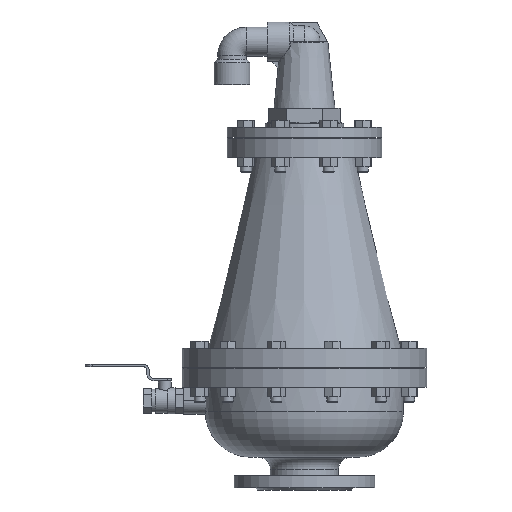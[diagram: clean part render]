
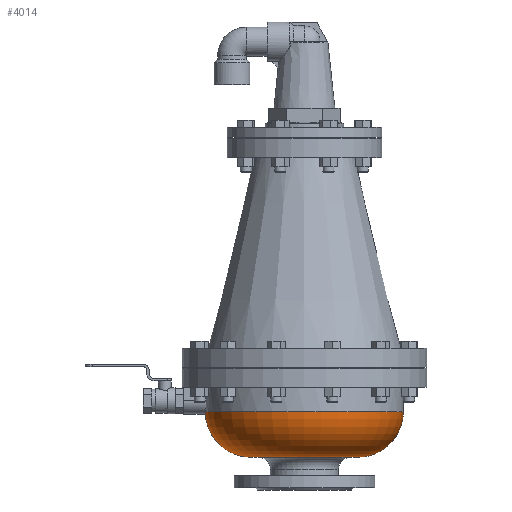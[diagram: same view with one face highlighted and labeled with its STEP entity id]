
A CAD part, left-side view. The second image highlights one B-rep face of the part: STEP entity #4014.
In plain terms, the highlighted toroidal (fillet/blend) face has major radius 76 mm and minor radius 65 mm.
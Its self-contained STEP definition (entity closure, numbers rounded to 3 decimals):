
#4014=ADVANCED_FACE('',(#8624,#8626),#8628,.T.);
#8624=FACE_BOUND('',#8625,.T.);
#8625=EDGE_LOOP('',(#12201,#12202,#12203));
#8626=FACE_OUTER_BOUND('',#8627,.T.);
#8627=EDGE_LOOP('',(#12204));
#8628=TOROIDAL_SURFACE('',#8629,76.,65.);
#8629=AXIS2_PLACEMENT_3D('',#8630,#8631,#8632);
#8630=CARTESIAN_POINT('',(0.,0.,111.59));
#8631=DIRECTION('',(0.,0.,-1.));
#8632=DIRECTION('',(-1.,0.,0.));
#12201=ORIENTED_EDGE('',*,*,#13940,.T.);
#12202=ORIENTED_EDGE('',*,*,#13939,.T.);
#12203=ORIENTED_EDGE('',*,*,#13981,.F.);
#12204=ORIENTED_EDGE('',*,*,#13982,.F.);
#13939=EDGE_CURVE('',#16127,#16125,#16128,.T.);
#13940=EDGE_CURVE('',#16129,#16127,#16130,.T.);
#13981=EDGE_CURVE('',#16129,#16125,#16202,.T.);
#13982=EDGE_CURVE('',#16203,#16203,#16204,.T.);
#16125=VERTEX_POINT('',#21406);
#16127=VERTEX_POINT('',#21455);
#16128=CIRCLE('',#21456,141.);
#16129=VERTEX_POINT('',#21460);
#16130=CIRCLE('',#21461,141.);
#16202=B_SPLINE_CURVE_WITH_KNOTS('',3,
(#21915,#21916,#21917,#21918,#21919,#21920,#21921,#21922,#21923,#21924,#21925,#21926,
#21927,#21928,#21929,#21930,#21931,#21932,#21933,#21934,#21935,#21936,#21937,#21938,
#21939,#21940,#21941,#21942,#21943,#21944,#21945,#21946,#21947,#21948,#21949,#21950,
#21951,#21952,#21953,#21954,#21955,#21956,#21957,#21958,#21959,#21960,#21961,#21962,
#21963,#21964,#21965,#21966,#21967,#21968,#21969,#21970,#21971,#21972,#21973,#21974,
#21975,#21976,#21977,#21978,#21979,#21980,#21981,#21982,#21983,#21984,#21985,#21986,
#21987,#21988,#21989,#21990,#21991,#21992,#21993,#21994,#21995,#21996,#21997,#21998,
#21999,#22000,#22001),
.UNSPECIFIED.,.F.,.F.,
(4,1,1,1,1,1,1,1,1,1,1,1,1,1,1,1,1,1,1,1,1,1,1,1,1,1,1,1,1,1,1,1,1,1,1,1,1,1,1,1,
1,1,1,1,1,1,1,1,1,1,1,1,1,1,1,1,1,1,1,1,1,1,1,1,1,1,1,1,1,1,1,1,1,1,1,1,1,1,1,1,
1,1,1,1,4),
(0.,0.004,0.009,0.013,0.018,
0.022,0.029,0.036,0.043,0.049,
0.055,0.062,0.068,0.076,0.084,
0.093,0.102,0.111,0.121,0.132,
0.143,0.154,0.166,0.179,0.191,
0.204,0.218,0.231,0.245,0.259,
0.273,0.287,0.302,0.316,0.33,
0.35,0.369,0.388,0.402,0.415,
0.429,0.442,0.455,0.468,0.481,
0.493,0.5,0.504,0.516,0.527,
0.538,0.553,0.568,0.582,0.594,
0.605,0.616,0.628,0.64,0.652,
0.664,0.677,0.69,0.702,0.715,
0.729,0.742,0.755,0.769,0.783,
0.801,0.825,0.848,0.866,0.879,
0.893,0.905,0.918,0.931,0.943,
0.955,0.966,0.978,0.989,1.),
.UNSPECIFIED.);
#16203=VERTEX_POINT('',#22002);
#16204=CIRCLE('',#22003,76.);
#21406=CARTESIAN_POINT('',(-11.115,140.561,111.59));
#21455=CARTESIAN_POINT('',(-141.,0.,111.59));
#21456=AXIS2_PLACEMENT_3D('',#21457,#21458,#21459);
#21457=CARTESIAN_POINT('',(0.,0.,111.59));
#21458=DIRECTION('',(0.,0.,-1.));
#21459=DIRECTION('',(-1.,0.,0.));
#21460=CARTESIAN_POINT('',(11.115,140.561,111.59));
#21461=AXIS2_PLACEMENT_3D('',#21462,#21463,#21464);
#21462=CARTESIAN_POINT('',(0.,0.,111.59));
#21463=DIRECTION('',(0.,0.,-1.));
#21464=DIRECTION('',(0.079,0.997,0.));
#21915=CARTESIAN_POINT('',(11.115,140.561,111.59));
#21916=CARTESIAN_POINT('',(11.087,140.563,111.57));
#21917=CARTESIAN_POINT('',(11.031,140.568,111.53));
#21918=CARTESIAN_POINT('',(10.947,140.574,111.47));
#21919=CARTESIAN_POINT('',(10.86,140.581,111.409));
#21920=CARTESIAN_POINT('',(10.77,140.588,111.347));
#21921=CARTESIAN_POINT('',(10.666,140.595,111.276));
#21922=CARTESIAN_POINT('',(10.547,140.604,111.196));
#21923=CARTESIAN_POINT('',(10.411,140.613,111.106));
#21924=CARTESIAN_POINT('',(10.28,140.622,111.021));
#21925=CARTESIAN_POINT('',(10.154,140.631,110.941));
#21926=CARTESIAN_POINT('',(10.03,140.639,110.863));
#21927=CARTESIAN_POINT('',(9.897,140.647,110.781));
#21928=CARTESIAN_POINT('',(9.754,140.656,110.694));
#21929=CARTESIAN_POINT('',(9.6,140.665,110.603));
#21930=CARTESIAN_POINT('',(9.433,140.675,110.507));
#21931=CARTESIAN_POINT('',(9.257,140.685,110.407));
#21932=CARTESIAN_POINT('',(9.07,140.695,110.304));
#21933=CARTESIAN_POINT('',(8.873,140.706,110.199));
#21934=CARTESIAN_POINT('',(8.662,140.716,110.089));
#21935=CARTESIAN_POINT('',(8.438,140.727,109.976));
#21936=CARTESIAN_POINT('',(8.201,140.738,109.86));
#21937=CARTESIAN_POINT('',(7.953,140.749,109.744));
#21938=CARTESIAN_POINT('',(7.693,140.76,109.626));
#21939=CARTESIAN_POINT('',(7.424,140.771,109.509));
#21940=CARTESIAN_POINT('',(7.146,140.782,109.394));
#21941=CARTESIAN_POINT('',(6.862,140.792,109.281));
#21942=CARTESIAN_POINT('',(6.569,140.802,109.171));
#21943=CARTESIAN_POINT('',(6.268,140.812,109.063));
#21944=CARTESIAN_POINT('',(5.96,140.821,108.958));
#21945=CARTESIAN_POINT('',(5.645,140.83,108.857));
#21946=CARTESIAN_POINT('',(5.323,140.838,108.76));
#21947=CARTESIAN_POINT('',(4.997,140.846,108.668));
#21948=CARTESIAN_POINT('',(4.666,140.853,108.581));
#21949=CARTESIAN_POINT('',(4.334,140.86,108.5));
#21950=CARTESIAN_POINT('',(3.963,140.867,108.416));
#21951=CARTESIAN_POINT('',(3.554,140.874,108.333));
#21952=CARTESIAN_POINT('',(3.108,140.88,108.254));
#21953=CARTESIAN_POINT('',(2.701,140.885,108.192));
#21954=CARTESIAN_POINT('',(2.333,140.889,108.143));
#21955=CARTESIAN_POINT('',(2.007,140.892,108.105));
#21956=CARTESIAN_POINT('',(1.685,140.895,108.074));
#21957=CARTESIAN_POINT('',(1.37,140.897,108.049));
#21958=CARTESIAN_POINT('',(1.06,140.898,108.029));
#21959=CARTESIAN_POINT('',(0.759,140.9,108.014));
#21960=CARTESIAN_POINT('',(0.465,140.9,108.005));
#21961=CARTESIAN_POINT('',(0.213,140.901,108.001));
#21962=CARTESIAN_POINT('',(0.025,140.901,108.));
#21963=CARTESIAN_POINT('',(-0.159,140.901,108.));
#21964=CARTESIAN_POINT('',(-0.374,140.901,108.003));
#21965=CARTESIAN_POINT('',(-0.644,140.9,108.01));
#21966=CARTESIAN_POINT('',(-0.938,140.899,108.022));
#21967=CARTESIAN_POINT('',(-1.259,140.898,108.041));
#21968=CARTESIAN_POINT('',(-1.608,140.895,108.067));
#21969=CARTESIAN_POINT('',(-1.927,140.893,108.097));
#21970=CARTESIAN_POINT('',(-2.219,140.89,108.129));
#21971=CARTESIAN_POINT('',(-2.484,140.888,108.162));
#21972=CARTESIAN_POINT('',(-2.753,140.885,108.2));
#21973=CARTESIAN_POINT('',(-3.027,140.881,108.242));
#21974=CARTESIAN_POINT('',(-3.306,140.877,108.289));
#21975=CARTESIAN_POINT('',(-3.59,140.873,108.341));
#21976=CARTESIAN_POINT('',(-3.877,140.868,108.399));
#21977=CARTESIAN_POINT('',(-4.169,140.863,108.462));
#21978=CARTESIAN_POINT('',(-4.463,140.857,108.531));
#21979=CARTESIAN_POINT('',(-4.76,140.851,108.605));
#21980=CARTESIAN_POINT('',(-5.057,140.844,108.685));
#21981=CARTESIAN_POINT('',(-5.358,140.837,108.77));
#21982=CARTESIAN_POINT('',(-5.66,140.829,108.862));
#21983=CARTESIAN_POINT('',(-5.966,140.821,108.96));
#21984=CARTESIAN_POINT('',(-6.272,140.811,109.064));
#21985=CARTESIAN_POINT('',(-6.615,140.8,109.187));
#21986=CARTESIAN_POINT('',(-7.026,140.786,109.345));
#21987=CARTESIAN_POINT('',(-7.501,140.768,109.541));
#21988=CARTESIAN_POINT('',(-7.968,140.749,109.749));
#21989=CARTESIAN_POINT('',(-8.359,140.731,109.936));
#21990=CARTESIAN_POINT('',(-8.676,140.716,110.095));
#21991=CARTESIAN_POINT('',(-8.952,140.702,110.24));
#21992=CARTESIAN_POINT('',(-9.222,140.687,110.387));
#21993=CARTESIAN_POINT('',(-9.485,140.672,110.536));
#21994=CARTESIAN_POINT('',(-9.74,140.657,110.686));
#21995=CARTESIAN_POINT('',(-9.987,140.642,110.835));
#21996=CARTESIAN_POINT('',(-10.226,140.626,110.986));
#21997=CARTESIAN_POINT('',(-10.457,140.61,111.136));
#21998=CARTESIAN_POINT('',(-10.682,140.594,111.286));
#21999=CARTESIAN_POINT('',(-10.901,140.578,111.437));
#22000=CARTESIAN_POINT('',(-11.044,140.567,111.539));
#22001=CARTESIAN_POINT('',(-11.115,140.561,111.59));
#22002=CARTESIAN_POINT('',(-76.,0.,46.59));
#22003=AXIS2_PLACEMENT_3D('',#22004,#22005,#22006);
#22004=CARTESIAN_POINT('',(0.,0.,46.59));
#22005=DIRECTION('',(0.,0.,-1.));
#22006=DIRECTION('',(-1.,0.,0.));
